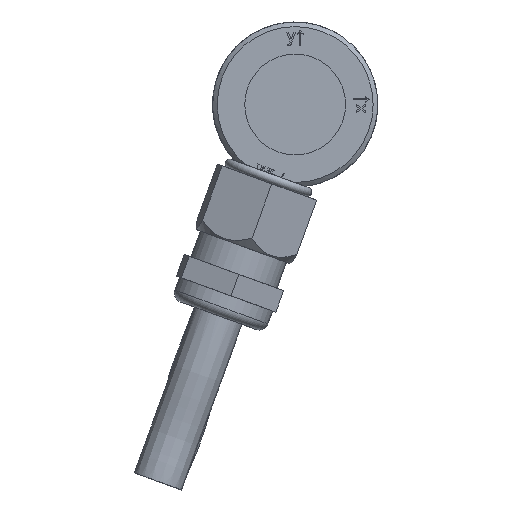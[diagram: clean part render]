
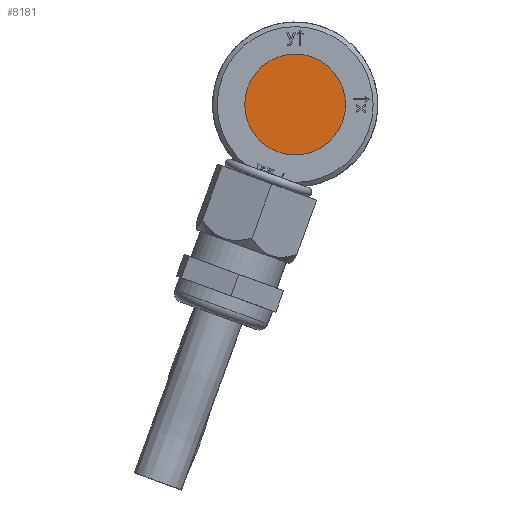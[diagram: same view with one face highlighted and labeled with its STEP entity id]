
A CAD part, left-side view. The second image highlights one B-rep face of the part: STEP entity #8181.
In plain terms, the highlighted planar face has unit normal (-1, 0, 0).
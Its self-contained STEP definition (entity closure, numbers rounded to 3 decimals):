
#758=CIRCLE('',#994,5.5);
#994=AXIS2_PLACEMENT_3D('',#10900,#3157,#3158);
#995=AXIS2_PLACEMENT_3D('',#10902,#3159,$);
#1263=PLANE('',#995);
#3157=DIRECTION('',(-1.,0.,0.));
#3158=DIRECTION('',(0.,0.,-5.5));
#3159=DIRECTION('',(1.,0.,0.));
#3966=VERTEX_POINT('',#10901);
#5042=EDGE_CURVE('',#3966,#3966,#758,.T.);
#6620=ORIENTED_EDGE('',*,*,#5042,.T.);
#7387=EDGE_LOOP('',(#6620));
#7805=FACE_BOUND('',#7387,.T.);
#8181=ADVANCED_FACE('',(#7805),#1263,.F.);
#10900=CARTESIAN_POINT('',(-29.,0.,0.));
#10901=CARTESIAN_POINT('',(-29.,0.,-5.5));
#10902=CARTESIAN_POINT('',(-29.,0.,0.));
